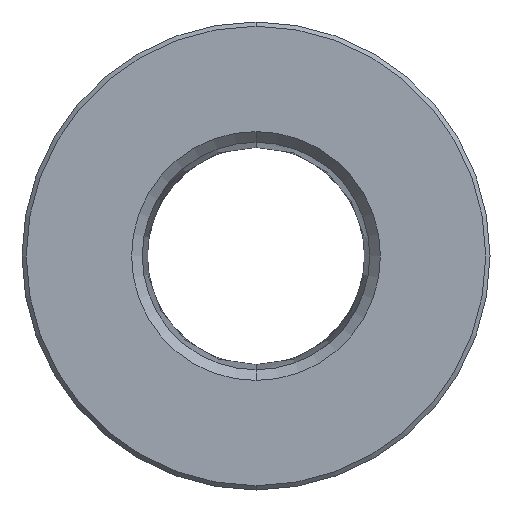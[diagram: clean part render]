
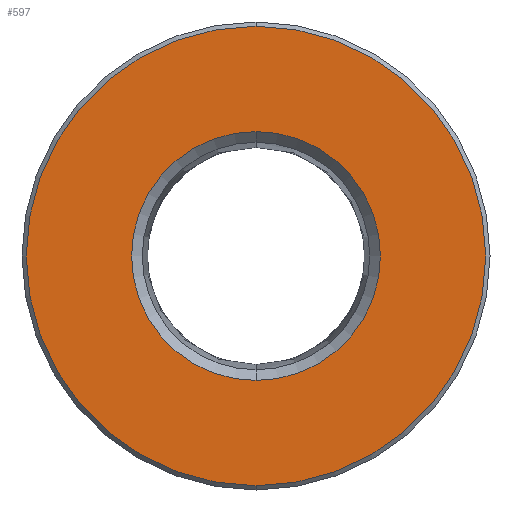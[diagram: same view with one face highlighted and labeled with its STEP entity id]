
A CAD part, front view. The second image highlights one B-rep face of the part: STEP entity #597.
In plain terms, the highlighted planar face has unit normal (0, -1, 0).
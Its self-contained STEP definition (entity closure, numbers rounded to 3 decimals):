
#17 = ORIENTED_EDGE ( 'NONE', *, *, #55, .T. ) ;
#18 = EDGE_CURVE ( 'NONE', #220, #574, #129, .T. ) ;
#25 = ORIENTED_EDGE ( 'NONE', *, *, #18, .T. ) ;
#31 = DIRECTION ( 'NONE',  ( 0., -1., 0. ) ) ;
#55 = EDGE_CURVE ( 'NONE', #97, #558, #324, .T. ) ;
#62 = ORIENTED_EDGE ( 'NONE', *, *, #469, .T. ) ;
#69 = CARTESIAN_POINT ( 'NONE',  ( 0., 0., 0. ) ) ;
#72 = EDGE_LOOP ( 'NONE', ( #17, #62 ) ) ;
#73 = AXIS2_PLACEMENT_3D ( 'NONE', #69, #253, #171 ) ;
#97 = VERTEX_POINT ( 'NONE', #181 ) ;
#107 = DIRECTION ( 'NONE',  ( 0., 0., -1. ) ) ;
#115 = DIRECTION ( 'NONE',  ( 0., -1., 0. ) ) ;
#129 = CIRCLE ( 'NONE', #73, 10.8 ) ;
#137 = DIRECTION ( 'NONE',  ( 0., 0., -1. ) ) ;
#147 = CARTESIAN_POINT ( 'NONE',  ( -11., 0., 0. ) ) ;
#160 = DIRECTION ( 'NONE',  ( 0., 0., -1. ) ) ;
#171 = DIRECTION ( 'NONE',  ( 0., 0., -1. ) ) ;
#179 = DIRECTION ( 'NONE',  ( 0., 1., 0. ) ) ;
#181 = CARTESIAN_POINT ( 'NONE',  ( 0., 0., -5.85 ) ) ;
#199 = CARTESIAN_POINT ( 'NONE',  ( 0., 0., -10.8 ) ) ;
#220 = VERTEX_POINT ( 'NONE', #588 ) ;
#246 = AXIS2_PLACEMENT_3D ( 'NONE', #625, #345, #107 ) ;
#251 = FACE_BOUND ( 'NONE', #72, .T. ) ;
#253 = DIRECTION ( 'NONE',  ( 0., -1., 0. ) ) ;
#255 = AXIS2_PLACEMENT_3D ( 'NONE', #516, #31, #137 ) ;
#284 = CIRCLE ( 'NONE', #255, 10.8 ) ;
#302 = EDGE_CURVE ( 'NONE', #574, #220, #284, .T. ) ;
#324 = CIRCLE ( 'NONE', #589, 5.85 ) ;
#345 = DIRECTION ( 'NONE',  ( 0., 1., 0. ) ) ;
#426 = ORIENTED_EDGE ( 'NONE', *, *, #302, .T. ) ;
#435 = FACE_OUTER_BOUND ( 'NONE', #511, .T. ) ;
#452 = CIRCLE ( 'NONE', #246, 5.85 ) ;
#469 = EDGE_CURVE ( 'NONE', #558, #97, #452, .T. ) ;
#511 = EDGE_LOOP ( 'NONE', ( #25, #426 ) ) ;
#516 = CARTESIAN_POINT ( 'NONE',  ( 0., 0., 0. ) ) ;
#520 = DIRECTION ( 'NONE',  ( 0., 0., -1. ) ) ;
#524 = AXIS2_PLACEMENT_3D ( 'NONE', #147, #115, #160 ) ;
#529 = CARTESIAN_POINT ( 'NONE',  ( 0., 0., 5.85 ) ) ;
#558 = VERTEX_POINT ( 'NONE', #529 ) ;
#574 = VERTEX_POINT ( 'NONE', #199 ) ;
#585 = PLANE ( 'NONE',  #524 ) ;
#588 = CARTESIAN_POINT ( 'NONE',  ( 0., 0., 10.8 ) ) ;
#589 = AXIS2_PLACEMENT_3D ( 'NONE', #614, #179, #520 ) ;
#597 = ADVANCED_FACE ( 'NONE', ( #251, #435 ), #585, .T. ) ;
#614 = CARTESIAN_POINT ( 'NONE',  ( 0., 0., 0. ) ) ;
#625 = CARTESIAN_POINT ( 'NONE',  ( 0., 0., 0. ) ) ;
